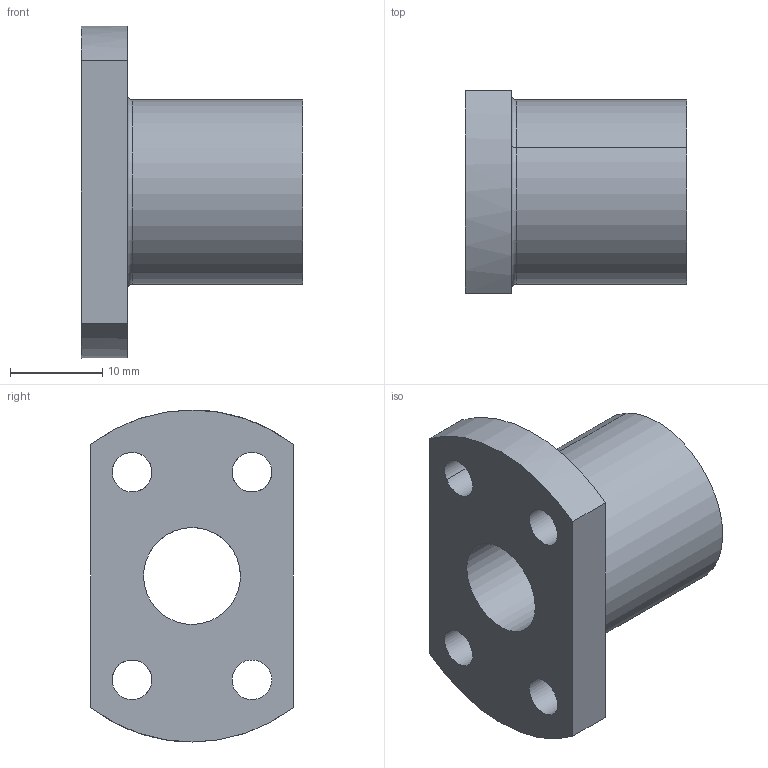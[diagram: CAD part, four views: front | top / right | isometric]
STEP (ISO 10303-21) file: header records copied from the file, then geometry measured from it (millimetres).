
FILE_DESCRIPTION(('CATIA V5 STEP Exchange'),'2;1');
FILE_NAME('C:\Users\aa\Documents\이댈\TM\ATM\ATM10.stp','2020-03-24T08:55:27+00:00',('none'),('none'),'CATIA Version 5 Release 20 SP 7 (IN-10)','CATIA V5 STEP AP203','none');
FILE_SCHEMA(('CONFIG_CONTROL_DESIGN'));
Length unit declared in the file: millimetre
Products named in the file (1): ATM10
Bounding box: 24 x 22 x 36 mm (x, y, z)
Volume: 7301.3 mm3; surface area: 3953.6 mm2
Topology: 1 solids, 1 shells, 21 faces, 52 edges, 34 vertices
Faces by surface type: cylinder 14, plane 5, torus 2
Entity records: 840 total; most frequent: CARTESIAN_POINT 298, ORIENTED_EDGE 104, DIRECTION 83, EDGE_CURVE 52, AXIS2_PLACEMENT_3D 43, VERTEX_POINT 34, EDGE_LOOP 32, ADVANCED_FACE 21
